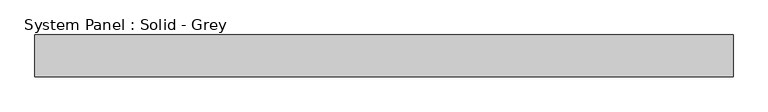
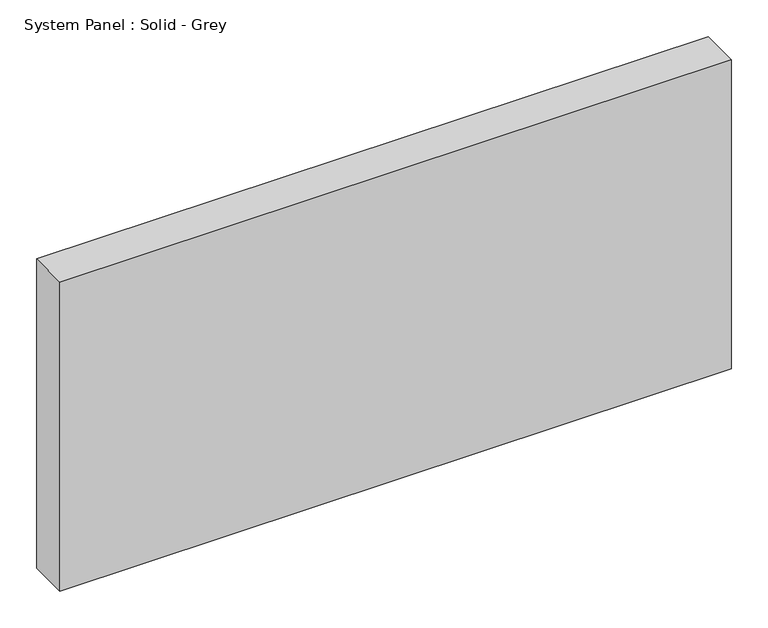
"""IFC4 building model written with IfcOpenShell, lengths in millimetres: plate geometry, System Panel : Solid - Grey."""

from ifc_helpers import new_model, si_unit, origin, origin_with_axes, place, context, project, spatial, polyline, outline, extrude, source, transform, mapped, element, save


def system_panel_solid_grey_9eb41032(model_context):
    return source(origin(), model_context, "Body", "SweptSolid", [
        extrude(outline(polyline([(528.4107144, -19.05), (-528.4107144, -19.05), (-528.4107144, 44.45), (528.4107144, 44.45), (528.4107144, -19.05)])), origin_with_axes(), (0.0, 0.0, 1.0), 514.35),
    ])


if __name__ == "__main__":
    model = new_model("IFC4")
    model_context = context("Model", 3, world=origin())
    ifc_project = project(units=[si_unit("LENGTHUNIT", "METRE", prefix="MILLI")], contexts=[model_context])
    site = spatial("IfcSite", under=ifc_project)
    building = spatial("IfcBuilding", under=site)
    placement = place(None, origin())
    system_panel_solid_grey_shape = system_panel_solid_grey_9eb41032(model_context)
    element("IfcPlate", 1, ObjectType="System Panel : Solid - Grey", at=placement, inside=building, context=model_context, shape_type="MappedRepresentation", body=[
        mapped(system_panel_solid_grey_shape, transform((0.0, 0.0, 0.0), x_axis=(1.0, 0.0, 0.0), y_axis=(0.0, 1.0, 0.0), z_axis=(0.0, 0.0, 1.0))),
    ])
    save(model, "model.ifc")
